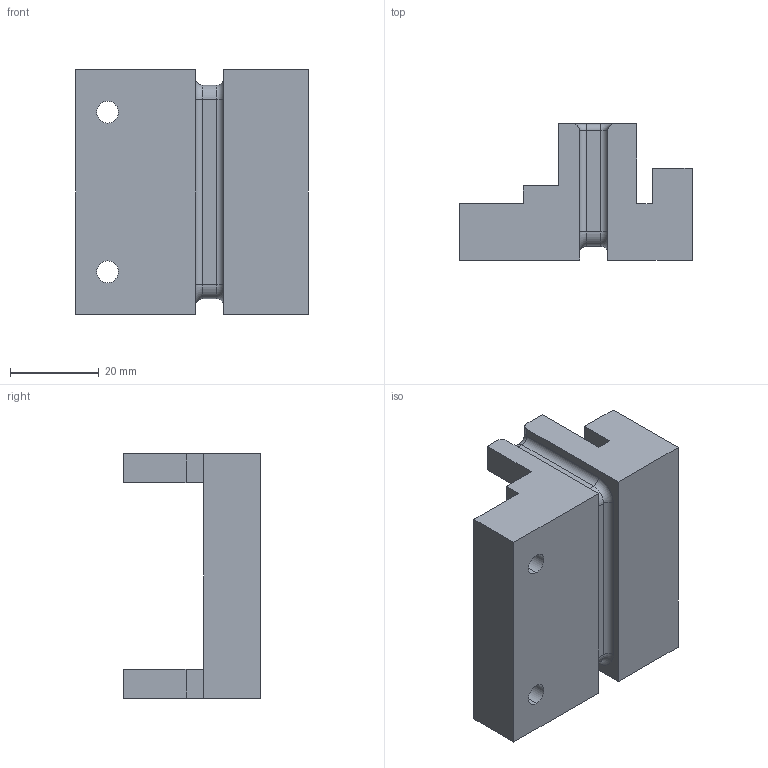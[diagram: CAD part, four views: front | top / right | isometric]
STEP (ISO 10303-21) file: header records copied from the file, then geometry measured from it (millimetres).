
FILE_DESCRIPTION (( 'STEP AP203' ), '1' );
FILE_NAME ('SERVO STAND lid lift rev02.STEP', '2018-03-05T16:44:12', ( '' ), ( '' ), 'SwSTEP 2.0', 'SolidWorks 2015', '' );
FILE_SCHEMA (( 'CONFIG_CONTROL_DESIGN' ));
Length unit declared in the file: inch
Products named in the file (1): SERVO STAND lid lift rev02
Bounding box: 52.29 x 30.7 x 55 mm (x, y, z)
Volume: 38973.7 mm3; surface area: 11562.7 mm2
Topology: 1 solids, 1 shells, 62 faces, 160 edges, 100 vertices
Faces by surface type: plane 32, cylinder 18, torus 8, cone 4
Entity records: 1959 total; most frequent: DIRECTION 334, CARTESIAN_POINT 323, ORIENTED_EDGE 320, EDGE_CURVE 160, LINE 112, VECTOR 112, AXIS2_PLACEMENT_3D 111, VERTEX_POINT 100
